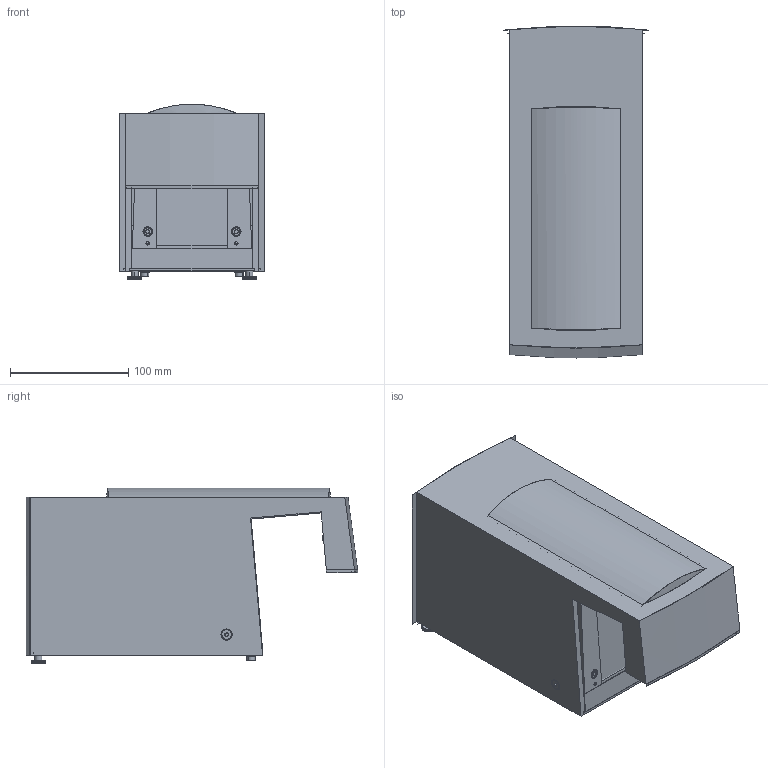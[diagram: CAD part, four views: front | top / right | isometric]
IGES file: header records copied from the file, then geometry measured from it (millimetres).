
Global section: file name: ararewe.igs; native system: OneSpace Designer 3D IGES; preprocessor: 11.60D  09-Mar-2003; date: 20030618.141309; units: millimetre
Bounding box: 123.29 x 280.86 x 148.5 mm (x, y, z)
Surface area: 369689.7 mm2 (no closed solid volume)
Topology: 0 solids, 0 shells, 2153 faces, 18668 edges, 18666 vertices
Faces by surface type: bspline 1589, revolution 564
